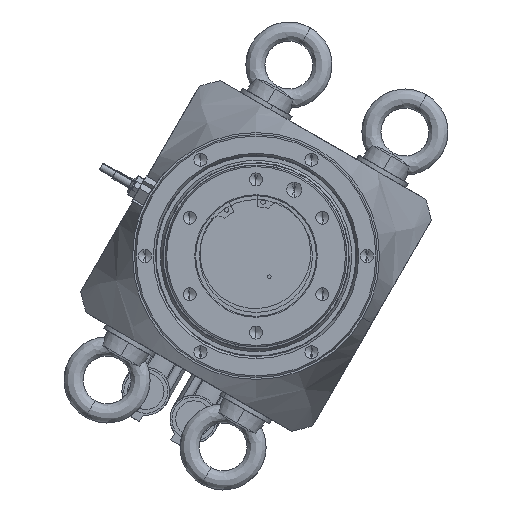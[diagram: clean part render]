
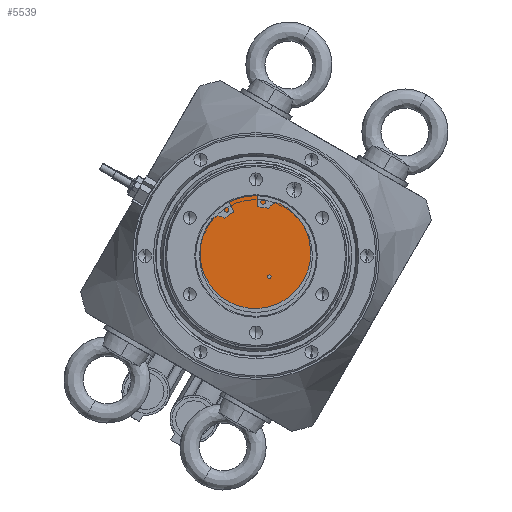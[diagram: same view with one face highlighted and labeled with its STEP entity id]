
A CAD part, front view. The second image highlights one B-rep face of the part: STEP entity #5539.
In plain terms, the highlighted planar face has unit normal (0, -1, 0).
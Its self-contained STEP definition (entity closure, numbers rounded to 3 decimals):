
#131 = DIRECTION ( 'NONE',  ( 0., 1., 0. ) ) ;
#395 = CARTESIAN_POINT ( 'NONE',  ( 71.219, -247.879, 97.194 ) ) ;
#902 = DIRECTION ( 'NONE',  ( 0., 0., 1. ) ) ;
#5539 = ADVANCED_FACE ( 'NONE', ( #8314, #15771 ), #12910, .F. ) ;
#6265 = CARTESIAN_POINT ( 'NONE',  ( 78.16, -247.879, 86.367 ) ) ;
#6903 = DIRECTION ( 'NONE',  ( 0., 1., 0. ) ) ;
#7724 = EDGE_CURVE ( 'NONE', #14207, #14943, #24164, .T. ) ;
#7898 = EDGE_CURVE ( 'NONE', #14943, #14207, #23764, .T. ) ;
#8314 = FACE_OUTER_BOUND ( 'NONE', #16085, .T. ) ;
#8796 = DIRECTION ( 'NONE',  ( 0., 0., 1. ) ) ;
#9855 = CARTESIAN_POINT ( 'NONE',  ( 71.219, -247.879, 65.694 ) ) ;
#10209 = ORIENTED_EDGE ( 'NONE', *, *, #23722, .T. ) ;
#10654 = ORIENTED_EDGE ( 'NONE', *, *, #22417, .T. ) ;
#11463 = AXIS2_PLACEMENT_3D ( 'NONE', #13933, #131, #902 ) ;
#12910 = PLANE ( 'NONE',  #23340 ) ;
#13764 = VERTEX_POINT ( 'NONE', #22905 ) ;
#13933 = CARTESIAN_POINT ( 'NONE',  ( 71.219, -247.879, 97.194 ) ) ;
#14207 = VERTEX_POINT ( 'NONE', #9855 ) ;
#14943 = VERTEX_POINT ( 'NONE', #29999 ) ;
#15452 = DIRECTION ( 'NONE',  ( 0., 0., 1. ) ) ;
#15526 = AXIS2_PLACEMENT_3D ( 'NONE', #21872, #6903, #24382 ) ;
#15771 = FACE_BOUND ( 'NONE', #24364, .T. ) ;
#16085 = EDGE_LOOP ( 'NONE', ( #28816, #27977 ) ) ;
#19271 = VERTEX_POINT ( 'NONE', #28869 ) ;
#19697 = CIRCLE ( 'NONE', #30146, 1. ) ;
#19785 = DIRECTION ( 'NONE',  ( 0., 1., 0. ) ) ;
#21872 = CARTESIAN_POINT ( 'NONE',  ( 78.16, -247.879, 86.367 ) ) ;
#22174 = CARTESIAN_POINT ( 'NONE',  ( 71.219, -247.879, 97.194 ) ) ;
#22417 = EDGE_CURVE ( 'NONE', #19271, #13764, #28374, .T. ) ;
#22905 = CARTESIAN_POINT ( 'NONE',  ( 78.16, -247.879, 85.367 ) ) ;
#23340 = AXIS2_PLACEMENT_3D ( 'NONE', #395, #30361, #15452 ) ;
#23722 = EDGE_CURVE ( 'NONE', #13764, #19271, #19697, .T. ) ;
#23750 = DIRECTION ( 'NONE',  ( 0., 1., 0. ) ) ;
#23764 = CIRCLE ( 'NONE', #11463, 31.5 ) ;
#24164 = CIRCLE ( 'NONE', #27159, 31.5 ) ;
#24364 = EDGE_LOOP ( 'NONE', ( #10209, #10654 ) ) ;
#24382 = DIRECTION ( 'NONE',  ( 0., 0., 1. ) ) ;
#27159 = AXIS2_PLACEMENT_3D ( 'NONE', #22174, #19785, #32187 ) ;
#27977 = ORIENTED_EDGE ( 'NONE', *, *, #7898, .F. ) ;
#28374 = CIRCLE ( 'NONE', #15526, 1. ) ;
#28816 = ORIENTED_EDGE ( 'NONE', *, *, #7724, .F. ) ;
#28869 = CARTESIAN_POINT ( 'NONE',  ( 78.16, -247.879, 87.367 ) ) ;
#29999 = CARTESIAN_POINT ( 'NONE',  ( 71.219, -247.879, 128.694 ) ) ;
#30146 = AXIS2_PLACEMENT_3D ( 'NONE', #6265, #23750, #8796 ) ;
#30361 = DIRECTION ( 'NONE',  ( 0., 1., 0. ) ) ;
#32187 = DIRECTION ( 'NONE',  ( 0., 0., 1. ) ) ;
